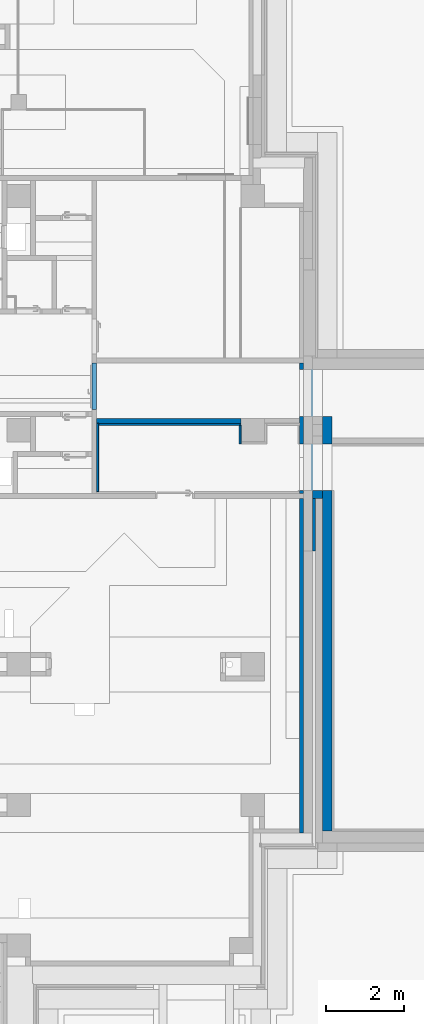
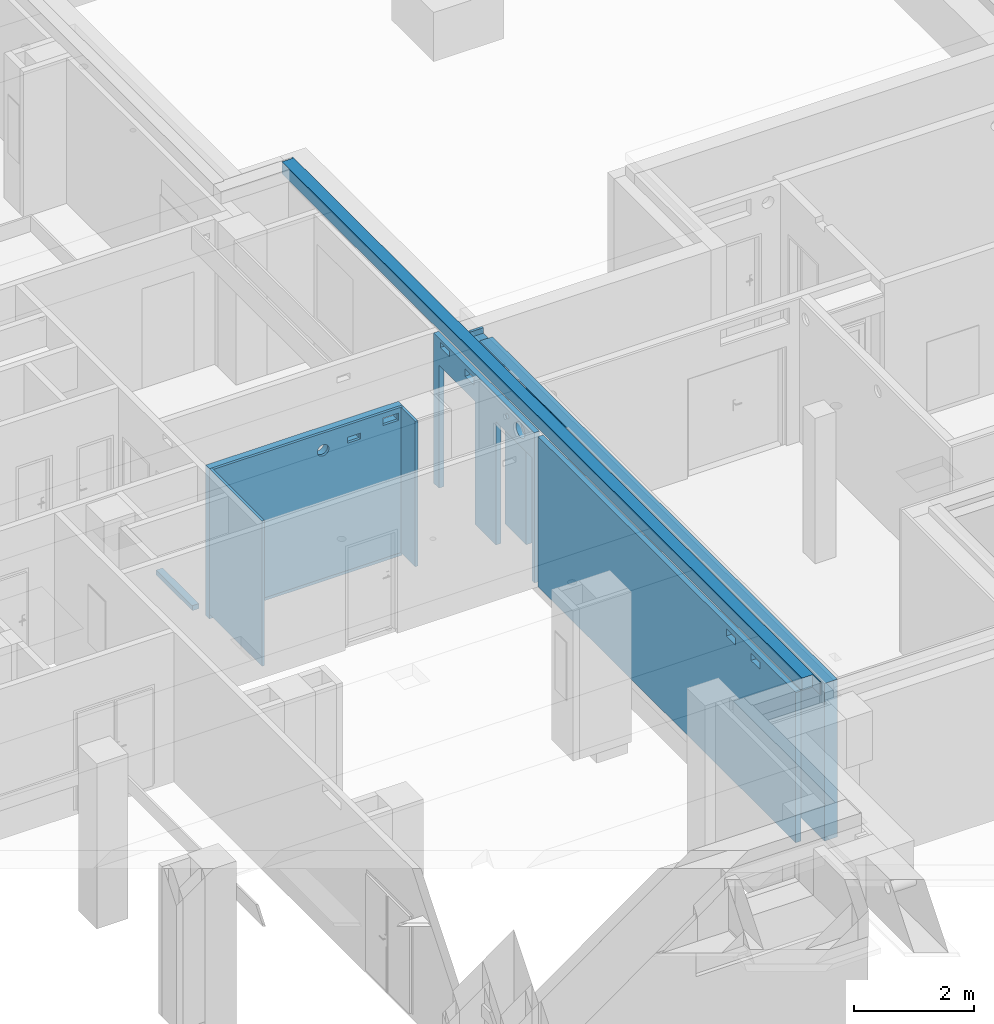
# One storey, part 34 of 84: 10 walls, 23 openings.
"""IFC4 building model written with IfcOpenShell, lengths in metres."""

from ifc_helpers import new_model, entity, si_unit, converted_unit, derived_unit, frame, frame_2d, origin, origin_with_axes, place, context, subcontext, project, spatial, polyline, rectangle, outline, extrude, material, layer, layer_set, layer_usage, element, save


model = new_model("IFC4")

# Units and contexts
model_context = context("Model", 3, precision=1e-05, world=origin())
body_context = subcontext(model_context, "Body", "Model", "MODEL_VIEW")
ifc_project = project(units=[si_unit("LENGTHUNIT", "METRE"), si_unit("AREAUNIT", "SQUARE_METRE"), si_unit("VOLUMEUNIT", "CUBIC_METRE"), si_unit("MASSUNIT", "GRAM", prefix="KILO"), converted_unit("PLANEANGLEUNIT", "DEGREE", entity("IfcPlaneAngleMeasure", 0.0174532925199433), si_unit("PLANEANGLEUNIT", "RADIAN"), dimensions=[0, 0, 0, 0, 0, 0, 0]), derived_unit("THERMALTRANSMITTANCEUNIT", [(si_unit("POWERUNIT", "WATT"), 1), (si_unit("THERMODYNAMICTEMPERATUREUNIT", "KELVIN"), -1), (si_unit("LENGTHUNIT", "METRE"), -2)]), derived_unit("VOLUMETRICFLOWRATEUNIT", [(si_unit("LENGTHUNIT", "METRE"), 3), (converted_unit("TIMEUNIT", "hour", entity("IfcTimeMeasure", 3600.0), si_unit("TIMEUNIT", "SECOND"), dimensions=[0, 0, 1, 0, 0, 0, 0]), -1), (si_unit("LENGTHUNIT", "METRE"), -1)])], contexts=[model_context])

# Site, building, storey
site_placement = place(None, origin())
site = spatial("IfcSite", under=ifc_project, at=site_placement, Name="3. ASŘ", CompositionType="ELEMENT")
building_placement = place(site_placement, origin())
building = spatial("IfcBuilding", under=site, at=building_placement, Name="Pavilon C", CompositionType="ELEMENT")
storey_placement = place(building_placement, frame((0.0, 0.0, -3.3)))
storey = spatial("IfcBuildingStorey", under=building, at=storey_placement, Name="Půdorys 1.PP", CompositionType="ELEMENT", Elevation=-3.3)

# Wall, openings
ifc_material_1 = material(Name="PÓROBETONOVÉ ZDIVO")
wall_1_placement = place(storey_placement, frame((51.25, 2.87999999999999, -0.1), z_axis=(0.0, 0.0, 1.0), x_axis=(0.0, 1.0, 0.0)))
wall_1 = element("IfcWall", 1, at=wall_1_placement, inside=storey, material=ifc_material_1, Name="PÓROBETONOVÉ ZDIVO", context=body_context, shape_type="SweptSolid", body=[
    extrude(rectangle(XDim=8.57, YDim=0.1, at=frame_2d((4.285, 0.05), x_axis=(1.0, 0.0))), origin_with_axes(), (0.0, 0.0, 1.0), 3.05),
    extrude(rectangle(XDim=3.35, YDim=0.1, at=frame_2d((1.675, 0.05), x_axis=(1.0, 0.0))), frame((8.695, 0.0, 0.0), z_axis=(0.0, 0.0, 1.0), x_axis=(1.0, 0.0, 0.0)), (0.0, 0.0, 1.0), 3.05),
])
opening_1_placement = place(wall_1_placement, frame((9.97, 0.1, 0.0), z_axis=(0.0, -1.0, 0.0), x_axis=(0.0, 0.0, 1.0)))
element("IfcOpeningElement", 2, at=opening_1_placement, cuts=wall_1, Name="Dveřní otvor", ObjectType="Opening", context=body_context, shape_type="SweptSolid", body=[
    extrude(outline(polyline([(0.0, 1.2), (2.5, 1.2), (2.5, 0.0), (0.0, 0.0), (0.0, 1.2)])), origin_with_axes(), (0.0, 0.0, 1.0), 0.1),
])
opening_2_placement = place(wall_1_placement, frame((9.30384548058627, 0.1, 2.68), z_axis=(0.0, -1.0, 0.0), x_axis=(0.0, 0.0, 1.0)))
element("IfcOpeningElement", 3, at=opening_2_placement, cuts=wall_1, Name="Prostup stěnou", ObjectType="Opening", context=body_context, shape_type="SweptSolid", body=[
    extrude(outline(polyline([(0.149999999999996, 0.0), (0.134320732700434, 0.000821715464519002), (0.118813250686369, 0.00327785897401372), (0.103647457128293, 0.00734152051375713), (0.0889895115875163, 0.0129681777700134), (0.0750000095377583, 0.0200961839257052), (0.0618322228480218, 0.0286474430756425), (0.0496304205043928, 0.0385282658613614), (0.0385282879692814, 0.0496303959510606), (0.0286474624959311, 0.0618321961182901), (0.0200962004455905, 0.0749999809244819), (0.0129681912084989, 0.0889894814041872), (0.00734153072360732, 0.103647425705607), (0.0032778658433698, 0.118813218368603), (0.000821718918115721, 0.134320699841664), (0.0, 0.149999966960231), (0.000821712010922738, 0.16567923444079), (0.00327785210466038, 0.181186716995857), (0.00734151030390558, 0.196352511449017), (0.0129681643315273, 0.211010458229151), (0.020096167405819, 0.22499996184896), (0.0286474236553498, 0.238167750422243), (0.0385282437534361, 0.250369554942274), (0.0496303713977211, 0.261471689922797), (0.0618321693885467, 0.271352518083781), (0.0749999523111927, 0.279903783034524), (0.0889894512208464, 0.287031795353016), (0.103647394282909, 0.292658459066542), (0.118813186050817, 0.296722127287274), (0.134320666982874, 0.299178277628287), (0.149999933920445, 0.3), (0.165679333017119, 0.299178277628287), (0.181186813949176, 0.296722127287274), (0.196352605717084, 0.292658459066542), (0.211010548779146, 0.287031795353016), (0.2250000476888, 0.279903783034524), (0.238167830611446, 0.271352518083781), (0.250369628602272, 0.261471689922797), (0.261471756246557, 0.250369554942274), (0.271352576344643, 0.238167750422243), (0.279903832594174, 0.22499996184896), (0.287031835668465, 0.211010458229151), (0.292658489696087, 0.196352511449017), (0.296722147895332, 0.181186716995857), (0.29917828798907, 0.16567923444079), (0.299999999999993, 0.149999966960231), (0.299178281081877, 0.134320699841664), (0.296722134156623, 0.118813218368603), (0.292658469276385, 0.103647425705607), (0.287031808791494, 0.0889894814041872), (0.279903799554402, 0.0749999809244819), (0.271352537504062, 0.0618321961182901), (0.261471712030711, 0.0496303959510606), (0.2503695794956, 0.0385282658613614), (0.238167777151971, 0.0286474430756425), (0.224999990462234, 0.0200961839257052), (0.211010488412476, 0.0129681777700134), (0.1963525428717, 0.00734152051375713), (0.181186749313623, 0.00327785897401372), (0.165679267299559, 0.000821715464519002), (0.149999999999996, 0.0)])), origin_with_axes(), (0.0, 0.0, 1.0), 0.1),
])
opening_3_placement = place(wall_1_placement, frame((1.48860889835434, 0.1, 2.8), z_axis=(0.0, -1.0, 0.0), x_axis=(0.0, 0.0, 1.0)))
element("IfcOpeningElement", 4, at=opening_3_placement, cuts=wall_1, Name="Prostup stěnou", ObjectType="Opening", context=body_context, shape_type="SweptSolid", body=[
    extrude(outline(polyline([(0.0, 0.3), (0.15, 0.3), (0.15, 0.0), (0.0, 0.0), (0.0, 0.3)])), origin_with_axes(), (0.0, 0.0, 1.0), 0.1),
])
opening_4_placement = place(wall_1_placement, frame((2.30860889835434, 0.1, 2.8), z_axis=(0.0, -1.0, 0.0), x_axis=(0.0, 0.0, 1.0)))
element("IfcOpeningElement", 5, at=opening_4_placement, cuts=wall_1, Name="Prostup stěnou", ObjectType="Opening", context=body_context, shape_type="SweptSolid", body=[
    extrude(outline(polyline([(0.0, 0.3), (0.15, 0.3), (0.15, 0.0), (0.0, 0.0), (0.0, 0.3)])), origin_with_axes(), (0.0, 0.0, 1.0), 0.1),
])
opening_5_placement = place(wall_1_placement, frame((11.0016914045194, 0.1, 2.8), z_axis=(0.0, -1.0, 0.0), x_axis=(0.0, 0.0, 1.0)))
element("IfcOpeningElement", 6, at=opening_5_placement, cuts=wall_1, Name="Prostup stěnou", ObjectType="Opening", context=body_context, shape_type="SweptSolid", body=[
    extrude(outline(polyline([(0.0, 0.3), (0.15, 0.3), (0.15, 0.0), (0.0, 0.0), (0.0, 0.3)])), origin_with_axes(), (0.0, 0.0, 1.0), 0.1),
])
opening_6_placement = place(wall_1_placement, frame((9.63913213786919, 0.1, 2.8), z_axis=(0.0, -1.0, 0.0), x_axis=(0.0, 0.0, 1.0)))
element("IfcOpeningElement", 7, at=opening_6_placement, cuts=wall_1, Name="Prostup stěnou", ObjectType="Opening", context=body_context, shape_type="SweptSolid", body=[
    extrude(outline(polyline([(0.0499999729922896, 0.0), (0.0447735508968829, 0.000273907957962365), (0.0396043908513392, 0.00109262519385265), (0.0345491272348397, 0.00244718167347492), (0.0296631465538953, 0.00432273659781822), (0.024999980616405, 0.006698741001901), (0.0206107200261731, 0.00954916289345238), (0.0165434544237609, 0.012842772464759), (0.0128427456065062, 0.0165434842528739), (0.00954913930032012, 0.0206107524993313), (0.00669872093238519, 0.0250000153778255), (0.0043227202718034, 0.0296631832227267), (0.00244716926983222, 0.0345491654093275), (0.00109261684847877, 0.0396044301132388), (0.000273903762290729, 0.0447735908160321), (0.0, 0.0500000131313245), (0.000273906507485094, 0.0552264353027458), (0.00109262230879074, 0.0603955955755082), (0.00244717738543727, 0.0654508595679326), (0.00432273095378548, 0.0703368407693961), (0.00669873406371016, 0.0750000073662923), (0.00954915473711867, 0.0793892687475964), (0.0128427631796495, 0.0834565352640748), (0.016543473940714, 0.0871572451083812), (0.0206107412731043, 0.0904508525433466), (0.0250000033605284, 0.0933012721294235), (0.0296631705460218, 0.0956772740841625), (0.0345491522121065, 0.0975528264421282), (0.0396044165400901, 0.0989073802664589), (0.0447735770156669, 0.0997260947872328), (0.0499999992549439, 0.1), (0.0552264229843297, 0.0997260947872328), (0.0603955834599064, 0.0989073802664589), (0.0654508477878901, 0.0975528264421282), (0.0703368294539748, 0.0956772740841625), (0.0749999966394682, 0.0933012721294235), (0.0793892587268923, 0.0904508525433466), (0.0834565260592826, 0.0871572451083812), (0.0871572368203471, 0.0834565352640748), (0.0904508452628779, 0.0793892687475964), (0.0933012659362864, 0.0750000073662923), (0.0956772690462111, 0.0703368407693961), (0.0975528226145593, 0.0654508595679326), (0.0989073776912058, 0.0603955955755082), (0.0997260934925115, 0.0552264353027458), (0.0999999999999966, 0.0500000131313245), (0.0997260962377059, 0.0447735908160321), (0.0989073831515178, 0.0396044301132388), (0.0975528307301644, 0.0345491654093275), (0.0956772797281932, 0.0296631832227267), (0.0933012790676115, 0.0250000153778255), (0.0904508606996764, 0.0206107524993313), (0.0871572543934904, 0.0165434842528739), (0.0834565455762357, 0.012842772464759), (0.0793892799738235, 0.00954916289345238), (0.0750000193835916, 0.006698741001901), (0.0703368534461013, 0.00432273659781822), (0.0654508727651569, 0.00244718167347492), (0.0603956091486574, 0.00109262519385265), (0.0552264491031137, 0.000273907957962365), (0.0499999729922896, 0.0)])), origin_with_axes(), (0.0, 0.0, 1.0), 0.1),
])
opening_7_placement = place(wall_1_placement, frame((11.82, 0.1, 2.89), z_axis=(0.0, -1.0, 0.0), x_axis=(0.0, 0.0, 1.0)))
element("IfcOpeningElement", 8, at=opening_7_placement, cuts=wall_1, Name="ZTI", ObjectType="Opening", context=body_context, shape_type="SweptSolid", body=[
    extrude(outline(polyline([(0.0, 0.3), (0.11, 0.3), (0.11, 0.0), (0.0, 0.0), (0.0, 0.3)])), origin_with_axes(), (0.0, 0.0, 1.0), 0.1),
])
opening_8_placement = place(wall_1_placement, frame((11.87, 0.1, 0.0), z_axis=(0.0, -1.0, 0.0), x_axis=(0.0, 0.0, 1.0)))
element("IfcOpeningElement", 9, at=opening_8_placement, cuts=wall_1, Name="Dveřní otvor", ObjectType="Opening", context=body_context, shape_type="SweptSolid", body=[
    extrude(outline(polyline([(0.0, 1.2), (2.5, 1.2), (2.5, 0.0), (0.0, 0.0), (0.0, 1.2)])), origin_with_axes(), (0.0, 0.0, 1.0), 0.1),
])

# Walls
ifc_material_2 = material(Name="ZELEZOBETONOVÁ KCE")
ifc_layer_1 = layer(ifc_material_2, 0.2)
ifc_material_3 = material(Name="LIGNOPOR")
ifc_layer_2 = layer(ifc_material_3, 0.025)
ifc_layer_set_1 = layer_set([ifc_layer_1, ifc_layer_2])
ifc_layer_usage_1 = layer_usage(ifc_layer_set_1, "AXIS2", "POSITIVE", 0.0)
wall_2_placement = place(storey_placement, frame((51.27, 20.17, 2.95), z_axis=(0.0, 0.0, 1.0), x_axis=(0.0, -1.0, 0.0)))
element("IfcWall", 10, at=wall_2_placement, inside=storey, material=ifc_layer_usage_1, context=body_context, shape_type="SweptSolid", body=[
    extrude(outline(polyline([(-17.54, 0.0), (-0.25, 0.0), (-0.25, 0.2), (0.0, 0.2), (0.0, 0.225), (-17.565, 0.225), (-17.565, 0.2), (-17.54, 0.2), (-17.54, 0.0)])), frame((17.54, 0.0, 0.0), z_axis=(0.0, 0.0, 1.0), x_axis=(1.0, 0.0, 0.0)), (0.0, 0.0, 1.0), 0.25),
])
ifc_material_4 = material(Name="AKUSTICKÝ OBKLAD")
ifc_layer_3 = layer(ifc_material_4, 0.05)
ifc_layer_set_2 = layer_set([ifc_layer_3])
ifc_layer_usage_2 = layer_usage(ifc_layer_set_2, "AXIS2", "POSITIVE", 0.0)
wall_3_placement = place(storey_placement, frame((45.95, 13.375, 0.0), z_axis=(0.0, 0.0, 1.0), x_axis=(0.0, -1.0, 0.0)))
element("IfcWall", 11, at=wall_3_placement, inside=storey, material=ifc_layer_usage_2, Name="AKUSTICKÝ OBKLAD", context=body_context, shape_type="SweptSolid", body=[
    extrude(rectangle(XDim=1.75, YDim=0.05, at=frame_2d((0.875, 0.025), x_axis=(1.0, 0.0))), origin_with_axes(), (0.0, 0.0, 1.0), 2.95),
])

# Wall, openings
ifc_material_5 = material(Name="AKUSTICKÝ OBKLAD")
ifc_layer_4 = layer(ifc_material_5, 0.05)
ifc_layer_set_3 = layer_set([ifc_layer_4])
ifc_layer_usage_3 = layer_usage(ifc_layer_set_3, "AXIS2", "POSITIVE", 0.0)
wall_4_placement = place(storey_placement, frame((49.65, 13.375, 0.0), z_axis=(0.0, 0.0, 1.0), x_axis=(-1.0, 0.0, 0.0)))
wall_4 = element("IfcWall", 12, at=wall_4_placement, inside=storey, material=ifc_layer_usage_3, Name="AKUSTICKÝ OBKLAD", context=body_context, shape_type="SweptSolid", body=[
    extrude(rectangle(XDim=3.65, YDim=0.05, at=frame_2d((1.825, 0.025), x_axis=(1.0, 0.0))), origin_with_axes(), (0.0, 0.0, 1.0), 2.95),
])
opening_9_placement = place(wall_4_placement, frame((1.65621743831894, 0.05, 2.4875), z_axis=(0.0, -1.0, 0.0), x_axis=(0.0, 0.0, 1.0)))
element("IfcOpeningElement", 13, at=opening_9_placement, cuts=wall_4, Name="Prostup stěnou", ObjectType="Opening", context=body_context, shape_type="SweptSolid", body=[
    extrude(outline(polyline([(0.1125, 0.0), (0.100740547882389, 0.00061628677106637), (0.089109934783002, 0.00245839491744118), (0.0777355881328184, 0.00550614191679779), (0.0667421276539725, 0.00972613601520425), (0.05625, 0.0150721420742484), (0.0463741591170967, 0.0214855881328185), (0.0372228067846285, 0.0288962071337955), (0.0288962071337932, 0.0372228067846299), (0.0214855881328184, 0.0463741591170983), (0.0150721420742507, 0.05625), (0.00972613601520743, 0.0667421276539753), (0.00550614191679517, 0.0777355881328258), (0.00245839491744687, 0.0891099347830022), (0.000616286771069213, 0.100740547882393), (0.0, 0.1125), (0.000616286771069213, 0.124259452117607), (0.00245839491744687, 0.135890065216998), (0.00550614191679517, 0.147264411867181), (0.00972613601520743, 0.158257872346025), (0.0150721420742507, 0.16875), (0.0214855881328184, 0.178625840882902), (0.0288962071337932, 0.18777719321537), (0.0372228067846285, 0.196103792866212), (0.0463741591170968, 0.203514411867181), (0.05625, 0.209927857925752), (0.0667421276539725, 0.215273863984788), (0.0777355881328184, 0.219493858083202), (0.089109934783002, 0.222541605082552), (0.100740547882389, 0.224383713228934), (0.1125, 0.225), (0.124259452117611, 0.224383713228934), (0.135890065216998, 0.222541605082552), (0.147264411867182, 0.219493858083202), (0.158257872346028, 0.215273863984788), (0.16875, 0.209927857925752), (0.178625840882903, 0.203514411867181), (0.187777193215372, 0.196103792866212), (0.196103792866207, 0.18777719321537), (0.203514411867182, 0.178625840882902), (0.209927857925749, 0.16875), (0.215273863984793, 0.158257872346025), (0.219493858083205, 0.147264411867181), (0.222541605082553, 0.135890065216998), (0.224383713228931, 0.124259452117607), (0.225, 0.1125), (0.224383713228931, 0.100740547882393), (0.222541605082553, 0.0891099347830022), (0.219493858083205, 0.0777355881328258), (0.215273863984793, 0.0667421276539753), (0.209927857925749, 0.05625), (0.203514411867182, 0.0463741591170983), (0.196103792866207, 0.0372228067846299), (0.187777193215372, 0.0288962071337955), (0.178625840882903, 0.0214855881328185), (0.16875, 0.0150721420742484), (0.158257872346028, 0.00972613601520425), (0.147264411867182, 0.00550614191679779), (0.135890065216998, 0.00245839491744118), (0.124259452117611, 0.00061628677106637), (0.1125, 0.0)])), origin_with_axes(), (0.0, 0.0, 1.0), 0.05),
])
opening_10_placement = place(wall_4_placement, frame((0.397454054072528, 0.05, 2.7), z_axis=(0.0, -1.0, 0.0), x_axis=(0.0, 0.0, 1.0)))
element("IfcOpeningElement", 14, at=opening_10_placement, cuts=wall_4, Name="Prostup stěnou", ObjectType="Opening", context=body_context, shape_type="SweptSolid", body=[
    extrude(outline(polyline([(0.0, 0.3), (0.15, 0.3), (0.15, 0.0), (0.0, 0.0), (0.0, 0.3)])), origin_with_axes(), (0.0, 0.0, 1.0), 0.05),
])
opening_11_placement = place(wall_4_placement, frame((1.07716515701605, 0.05, 2.58), z_axis=(0.0, -1.0, 0.0), x_axis=(0.0, 0.0, 1.0)))
element("IfcOpeningElement", 15, at=opening_11_placement, cuts=wall_4, Name="Prostup stěnou", ObjectType="Opening", context=body_context, shape_type="SweptSolid", body=[
    extrude(outline(polyline([(0.0, 0.25), (0.12, 0.25), (0.12, 0.0), (0.0, 0.0), (0.0, 0.25)])), origin_with_axes(), (0.0, 0.0, 1.0), 0.05),
])

# Walls
ifc_material_6 = material(Name="AKUSTICKÝ OBKLAD")
ifc_layer_5 = layer(ifc_material_6, 0.05)
ifc_layer_set_4 = layer_set([ifc_layer_5])
ifc_layer_usage_4 = layer_usage(ifc_layer_set_4, "AXIS2", "POSITIVE", 0.0)
wall_5_placement = place(storey_placement, frame((49.65, 12.85, 0.0), z_axis=(0.0, 0.0, 1.0), x_axis=(0.0, 1.0, 0.0)))
element("IfcWall", 16, at=wall_5_placement, inside=storey, material=ifc_layer_usage_4, Name="AKUSTICKÝ OBKLAD", context=body_context, shape_type="SweptSolid", body=[
    extrude(rectangle(XDim=0.475, YDim=0.05, at=frame_2d((0.2375, 0.025), x_axis=(1.0, 0.0))), origin_with_axes(), (0.0, 0.0, 1.0), 2.95),
])
ifc_material_7 = material(Name="PERIMETR")
ifc_layer_6 = layer(ifc_material_7, 0.08)
ifc_layer_set_5 = layer_set([ifc_layer_6])
ifc_layer_usage_5 = layer_usage(ifc_layer_set_5, "AXIS2", "POSITIVE", 0.0)
wall_6_placement = place(storey_placement, frame((51.555, 10.1, 0.9), z_axis=(0.0, 0.0, 1.0), x_axis=(0.0, 1.0, 0.0)))
element("IfcWall", 17, at=wall_6_placement, inside=storey, material=ifc_layer_usage_5, Name="PERIMETR", context=body_context, shape_type="SweptSolid", body=[
    extrude(rectangle(XDim=1.34999999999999, YDim=0.08, at=frame_2d((0.674999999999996, 0.04), x_axis=(1.0, 0.0))), origin_with_axes(), (0.0, 0.0, 1.0), 2.05),
])

# Wall, openings
ifc_material_8 = material(Name="ZELEZOBETONOVÁ KCE")
ifc_layer_7 = layer(ifc_material_8, 0.25)
ifc_layer_set_6 = layer_set([ifc_layer_7])
ifc_layer_usage_6 = layer_usage(ifc_layer_set_6, "AXIS2", "POSITIVE", -0.125)
wall_7_placement = place(storey_placement, frame((51.98, 2.93, -0.3), z_axis=(0.0, 0.0, 1.0), x_axis=(0.0, 1.0, 0.0)))
wall_7 = element("IfcWall", 18, at=wall_7_placement, inside=storey, material=ifc_layer_usage_6, Name="ZELEZOBETONOVÁ KCE", context=body_context, shape_type="SweptSolid", body=[
    extrude(rectangle(XDim=11.82, YDim=0.25, at=frame_2d((5.91, 0.125), x_axis=(1.0, 0.0))), origin_with_axes(), (0.0, 0.0, 1.0), 3.2),
])
opening_12_placement = place(wall_7_placement, frame((10.62, 0.0, 0.0), z_axis=(0.0, 1.0, 0.0), x_axis=(0.0, 0.0, 1.0)))
element("IfcOpeningElement", 19, at=opening_12_placement, cuts=wall_7, Name="Dveřní otvor", ObjectType="Opening", context=body_context, shape_type="SweptSolid", body=[
    extrude(outline(polyline([(0.0, 1.2), (2.7, 1.2), (2.7, 0.0), (0.0, 0.0), (0.0, 1.2)])), origin_with_axes(), (0.0, 0.0, 1.0), 0.25),
])
opening_13_placement = place(wall_7_placement, frame((8.72, 0.0, 0.0), z_axis=(0.0, 1.0, 0.0), x_axis=(0.0, 0.0, 1.0)))
element("IfcOpeningElement", 20, at=opening_13_placement, cuts=wall_7, Name="Dveřní otvor", ObjectType="Opening", context=body_context, shape_type="SweptSolid", body=[
    extrude(outline(polyline([(0.0, 1.2), (2.7, 1.2), (2.7, 0.0), (0.0, 0.0), (0.0, 1.2)])), origin_with_axes(), (0.0, 0.0, 1.0), 0.25),
])
opening_14_placement = place(wall_7_placement, frame((1.12860889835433, 0.0, 3.0), z_axis=(0.0, 1.0, 0.0), x_axis=(0.0, 0.0, 1.0)))
element("IfcOpeningElement", 21, at=opening_14_placement, cuts=wall_7, Name="UT", ObjectType="Opening", context=body_context, shape_type="SweptSolid", body=[
    extrude(outline(polyline([(0.0, 0.31), (0.15, 0.31), (0.15, 0.0), (0.0, 0.0), (0.0, 0.31)])), origin_with_axes(), (0.0, 0.0, 1.0), 0.25),
])
opening_15_placement = place(wall_7_placement, frame((1.95860889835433, 0.0, 3.0), z_axis=(0.0, 1.0, 0.0), x_axis=(0.0, 0.0, 1.0)))
element("IfcOpeningElement", 22, at=opening_15_placement, cuts=wall_7, Name="UT", ObjectType="Opening", context=body_context, shape_type="SweptSolid", body=[
    extrude(outline(polyline([(0.0, 0.3), (0.15, 0.3), (0.15, 0.0), (0.0, 0.0), (0.0, 0.3)])), origin_with_axes(), (0.0, 0.0, 1.0), 0.25),
])
opening_16_placement = place(wall_7_placement, frame((11.47, 0.0, 3.09), z_axis=(0.0, 1.0, 0.0), x_axis=(0.0, 0.0, 1.0)))
element("IfcOpeningElement", 23, at=opening_16_placement, cuts=wall_7, Name="ZTI", ObjectType="Opening", context=body_context, shape_type="SweptSolid", body=[
    extrude(outline(polyline([(0.0, 0.3), (0.11, 0.3), (0.11, 0.0), (0.0, 0.0), (0.0, 0.3)])), origin_with_axes(), (0.0, 0.0, 1.0), 0.25),
])
opening_17_placement = place(wall_7_placement, frame((10.6516914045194, 0.0, 3.0), z_axis=(0.0, 1.0, 0.0), x_axis=(0.0, 0.0, 1.0)))
element("IfcOpeningElement", 24, at=opening_17_placement, cuts=wall_7, Name="UT", ObjectType="Opening", context=body_context, shape_type="SweptSolid", body=[
    extrude(outline(polyline([(0.0, 0.3), (0.15, 0.3), (0.15, 0.0), (0.0, 0.0), (0.0, 0.3)])), origin_with_axes(), (0.0, 0.0, 1.0), 0.25),
])
opening_18_placement = place(wall_7_placement, frame((9.48913213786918, 0.0, 3.0), z_axis=(0.0, 1.0, 0.0), x_axis=(0.0, 0.0, 1.0)))
element("IfcOpeningElement", 25, at=opening_18_placement, cuts=wall_7, Name="ZTI", ObjectType="Opening", context=body_context, shape_type="SweptSolid", body=[
    extrude(outline(polyline([(0.0499999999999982, 0.0), (0.044773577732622, 0.00027390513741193), (0.0396044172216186, 0.00109261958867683), (0.0345491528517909, 0.00244717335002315), (0.0296631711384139, 0.00432272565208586), (0.0250000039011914, 0.00669872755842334), (0.0206107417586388, 0.0095491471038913), (0.0165434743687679, 0.0128427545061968), (0.0128427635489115, 0.0165434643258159), (0.0095491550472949, 0.0206107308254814), (0.00669873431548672, 0.0249999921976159), (0.00432273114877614, 0.0296631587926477), (0.00244717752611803, 0.0345491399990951), (0.00109262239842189, 0.03960440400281), (0.000273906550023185, 0.044773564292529), (0.0, 0.0499999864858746), (0.000273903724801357, 0.0552264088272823), (0.00109261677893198, 0.0603955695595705), (0.00244716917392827, 0.0654508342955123), (0.00432272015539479, 0.0703368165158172), (0.00669872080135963, 0.0749999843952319), (0.00954913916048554, 0.0793892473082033), (0.0128427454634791, 0.0834565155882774), (0.0165434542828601, 0.0871572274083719), (0.0206107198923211, 0.0904508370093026), (0.0249999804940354, 0.0933012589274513), (0.0296631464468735, 0.0956772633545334), (0.0345491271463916, 0.0975528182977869), (0.0396043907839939, 0.0989073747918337), (0.0447735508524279, 0.0997260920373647), (0.0499999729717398, 0.1), (0.0552264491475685, 0.0997260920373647), (0.0603956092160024, 0.0989073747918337), (0.0654508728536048, 0.0975528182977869), (0.0703368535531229, 0.0956772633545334), (0.075000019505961, 0.0933012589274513), (0.0793892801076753, 0.0904508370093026), (0.0834565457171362, 0.0871572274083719), (0.0871572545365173, 0.0834565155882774), (0.0904508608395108, 0.0793892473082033), (0.0933012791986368, 0.0749999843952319), (0.0956772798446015, 0.0703368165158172), (0.097552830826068, 0.0654508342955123), (0.0989073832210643, 0.0603955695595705), (0.099726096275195, 0.0552264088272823), (0.0999999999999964, 0.0499999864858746), (0.0997260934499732, 0.044773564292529), (0.0989073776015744, 0.03960440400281), (0.0975528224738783, 0.0345491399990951), (0.0956772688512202, 0.0296631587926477), (0.0933012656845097, 0.0249999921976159), (0.0904508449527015, 0.0206107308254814), (0.0871572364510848, 0.0165434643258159), (0.0834565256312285, 0.0128427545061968), (0.0793892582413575, 0.0095491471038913), (0.074999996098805, 0.00669872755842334), (0.0703368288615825, 0.00432272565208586), (0.0654508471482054, 0.00244717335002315), (0.0603955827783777, 0.00109261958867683), (0.0552264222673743, 0.00027390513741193), (0.0499999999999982, 0.0)])), origin_with_axes(), (0.0, 0.0, 1.0), 0.25),
])
opening_19_placement = place(wall_7_placement, frame((8.95384548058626, 0.0, 2.88), z_axis=(0.0, 1.0, 0.0), x_axis=(0.0, 0.0, 1.0)))
element("IfcOpeningElement", 26, at=opening_19_placement, cuts=wall_7, Name="VZT", ObjectType="Opening", context=body_context, shape_type="SweptSolid", body=[
    extrude(outline(polyline([(0.149999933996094, 0.0), (0.134320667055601, 0.000821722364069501), (0.11881318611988, 0.00327787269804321), (0.10364739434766, 0.00734154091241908), (0.0889894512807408, 0.0129682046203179), (0.0749999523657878, 0.0200962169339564), (0.0618321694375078, 0.0286474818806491), (0.0496303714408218, 0.0385283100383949), (0.0385282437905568, 0.0496304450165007), (0.0286474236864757, 0.0618322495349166), (0.0200961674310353, 0.0750000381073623), (0.0129681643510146, 0.08898954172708), (0.00734151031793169, 0.103647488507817), (0.00327785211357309, 0.118813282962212), (0.000821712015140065, 0.134320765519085), (0.0, 0.150000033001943), (0.00082171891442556, 0.165679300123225), (0.00327786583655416, 0.181186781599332), (0.00734153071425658, 0.196352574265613), (0.0129681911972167, 0.211010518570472), (0.0200962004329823, 0.225000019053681), (0.0286474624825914, 0.238167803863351), (0.0385282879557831, 0.250369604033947), (0.0496304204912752, 0.261471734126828), (0.0618322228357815, 0.271352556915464), (0.0750000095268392, 0.27990381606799), (0.0889895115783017, 0.287031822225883), (0.103647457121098, 0.292658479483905), (0.118813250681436, 0.296722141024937), (0.134320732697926, 0.299178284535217), (0.149999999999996, 0.3), (0.165679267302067, 0.299178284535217), (0.181186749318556, 0.296722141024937), (0.196352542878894, 0.292658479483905), (0.211010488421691, 0.287031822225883), (0.224999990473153, 0.27990381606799), (0.238167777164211, 0.271352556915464), (0.250369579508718, 0.261471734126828), (0.26147171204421, 0.250369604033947), (0.271352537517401, 0.238167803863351), (0.27990379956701, 0.225000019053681), (0.287031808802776, 0.211010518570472), (0.292658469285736, 0.196352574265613), (0.296722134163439, 0.181186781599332), (0.299178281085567, 0.165679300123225), (0.299999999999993, 0.150000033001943), (0.299178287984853, 0.134320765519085), (0.29672214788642, 0.118813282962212), (0.292658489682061, 0.103647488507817), (0.287031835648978, 0.08898954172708), (0.279903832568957, 0.0750000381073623), (0.271352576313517, 0.0618322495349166), (0.261471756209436, 0.0496304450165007), (0.250369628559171, 0.0385283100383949), (0.238167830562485, 0.0286474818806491), (0.225000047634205, 0.0200962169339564), (0.211010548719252, 0.0129682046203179), (0.196352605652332, 0.00734154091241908), (0.181186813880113, 0.00327787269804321), (0.165679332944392, 0.000821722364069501), (0.149999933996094, 0.0)])), origin_with_axes(), (0.0, 0.0, 1.0), 0.25),
])

# Wall
ifc_material_9 = material(Name="ZELEZOBETONOVÁ KCE")
ifc_layer_8 = layer(ifc_material_9, 0.2)
ifc_layer_set_7 = layer_set([ifc_layer_8])
ifc_layer_usage_7 = layer_usage(ifc_layer_set_7, "AXIS2", "POSITIVE", 0.0)
wall_8_placement = place(storey_placement, frame((51.73, 11.65, -0.3), z_axis=(0.0, 0.0, 1.0), x_axis=(-1.0, 0.0, 0.0)))
element("IfcWall", 27, at=wall_8_placement, inside=storey, material=ifc_layer_usage_7, Name="ZELEZOBETONOVÁ KCE", context=body_context, shape_type="SweptSolid", body=[
    extrude(rectangle(XDim=0.255, YDim=0.2, at=frame_2d((0.1275, 0.1), x_axis=(1.0, 0.0))), origin_with_axes(), (0.0, 0.0, 1.0), 3.2),
])

# Wall, opening
ifc_material_10 = material(Name="ZDIVO Z CDm")
ifc_layer_9 = layer(ifc_material_10, 0.125)
ifc_layer_set_8 = layer_set([ifc_layer_9])
ifc_layer_usage_8 = layer_usage(ifc_layer_set_8, "AXIS2", "POSITIVE", 0.0)
wall_9_placement = place(storey_placement, frame((45.95, 13.725, -0.1), z_axis=(0.0, 0.0, 1.0), x_axis=(0.0, 1.0, 0.0)))
wall_9 = element("IfcWall", 28, at=wall_9_placement, inside=storey, material=ifc_layer_usage_8, Name="ZDIVO Z CDm", context=body_context, shape_type="SweptSolid", body=[
    extrude(rectangle(XDim=1.2, YDim=0.125, at=frame_2d((0.6, 0.0625), x_axis=(1.0, 0.0))), origin_with_axes(), (0.0, 0.0, 1.0), 2.12),
])
opening_20_placement = place(wall_9_placement, frame((0.0, 0.0, 0.1), z_axis=(0.0, 1.0, 0.0), x_axis=(0.0, 0.0, 1.0)))
element("IfcOpeningElement", 29, at=opening_20_placement, cuts=wall_9, Name="Dveřní otvor", ObjectType="Opening", context=body_context, shape_type="SweptSolid", body=[
    extrude(outline(polyline([(0.0, 1.2), (2.02, 1.2), (2.02, 0.0), (0.0, 0.0), (0.0, 1.2)])), origin_with_axes(), (0.0, 0.0, 1.0), 0.125),
])

# Wall, openings
ifc_material_11 = material(Name="SDK - 1 KCE + DVOJITÉ OPLÁŠTĚNÍ")
ifc_layer_10 = layer(ifc_material_11, 0.125)
ifc_layer_set_9 = layer_set([ifc_layer_10])
ifc_layer_usage_9 = layer_usage(ifc_layer_set_9, "AXIS2", "POSITIVE", 0.0)
wall_10_placement = place(storey_placement, frame((49.65, 13.5, -0.1), z_axis=(0.0, 0.0, 1.0), x_axis=(-1.0, 0.0, 0.0)))
wall_10 = element("IfcWall", 30, at=wall_10_placement, inside=storey, material=ifc_layer_usage_9, Name="SDK - 1 KCE + DVOJITÉ OPLÁŠTĚNÍ", context=body_context, shape_type="SweptSolid", body=[
    extrude(rectangle(XDim=3.7, YDim=0.125, at=frame_2d((1.85, 0.0625), x_axis=(1.0, 0.0))), origin_with_axes(), (0.0, 0.0, 1.0), 3.05),
])
opening_21_placement = place(wall_10_placement, frame((1.43121743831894, 0.0, 2.5875), z_axis=(0.0, 1.0, 0.0), x_axis=(0.0, 0.0, 1.0)))
element("IfcOpeningElement", 31, at=opening_21_placement, cuts=wall_10, Name="VZT", ObjectType="Opening", context=body_context, shape_type="SweptSolid", body=[
    extrude(outline(polyline([(0.112499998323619, 0.225), (0.124259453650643, 0.2243837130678), (0.135890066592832, 0.222541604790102), (0.147264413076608, 0.219493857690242), (0.158257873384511, 0.21527386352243), (0.168750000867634, 0.209927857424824), (0.178625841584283, 0.203514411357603), (0.187777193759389, 0.196103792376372), (0.196103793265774, 0.187777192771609), (0.203514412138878, 0.178625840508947), (0.209927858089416, 0.168749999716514), (0.215273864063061, 0.158257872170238), (0.219493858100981, 0.147264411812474), (0.222541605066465, 0.135890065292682), (0.224383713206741, 0.124259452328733), (0.225, 0.112500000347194), (0.224383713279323, 0.100740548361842), (0.222541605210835, 0.0891099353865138), (0.219493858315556, 0.0777355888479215), (0.21527386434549, 0.0667421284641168), (0.209927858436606, 0.0562500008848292), (0.203514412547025, 0.0463741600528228), (0.196103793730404, 0.0372228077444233), (0.187777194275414, 0.0288962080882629), (0.178625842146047, 0.0214855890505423), (0.168750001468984, 0.0150721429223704), (0.158257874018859, 0.00972613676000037), (0.147264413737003, 0.00550614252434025), (0.135890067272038, 0.00245839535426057), (0.124259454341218, 0.000616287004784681), (0.11249999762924, 0.0), (0.100740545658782, 0.000616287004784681), (0.089109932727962, 0.00245839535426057), (0.0777355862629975, 0.00550614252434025), (0.0667421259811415, 0.00972613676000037), (0.0562499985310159, 0.0150721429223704), (0.0463741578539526, 0.0214855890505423), (0.0372228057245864, 0.0288962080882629), (0.0288962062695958, 0.0372228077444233), (0.0214855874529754, 0.0463741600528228), (0.015072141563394, 0.0562500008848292), (0.0097261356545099, 0.0667421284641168), (0.00550614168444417, 0.0777355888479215), (0.00245839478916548, 0.0891099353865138), (0.000616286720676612, 0.100740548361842), (0.0, 0.112500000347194), (0.000616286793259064, 0.124259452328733), (0.00245839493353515, 0.135890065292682), (0.00550614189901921, 0.147264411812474), (0.0097261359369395, 0.158257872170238), (0.0150721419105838, 0.168749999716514), (0.0214855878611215, 0.178625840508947), (0.0288962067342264, 0.187777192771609), (0.0372228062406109, 0.196103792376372), (0.0463741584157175, 0.203514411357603), (0.0562499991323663, 0.209927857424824), (0.0667421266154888, 0.21527386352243), (0.0777355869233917, 0.219493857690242), (0.0891099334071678, 0.222541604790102), (0.100740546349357, 0.2243837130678), (0.112499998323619, 0.225)])), origin_with_axes(), (0.0, 0.0, 1.0), 0.125),
])
opening_22_placement = place(wall_10_placement, frame((0.0974540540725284, 0.0, 2.8), z_axis=(0.0, 1.0, 0.0), x_axis=(0.0, 0.0, 1.0)))
element("IfcOpeningElement", 32, at=opening_22_placement, cuts=wall_10, Name="UT", ObjectType="Opening", context=body_context, shape_type="SweptSolid", body=[
    extrude(outline(polyline([(0.0, 0.3), (0.15, 0.3), (0.15, 0.0), (0.0, 0.0), (0.0, 0.3)])), origin_with_axes(), (0.0, 0.0, 1.0), 0.125),
])
opening_23_placement = place(wall_10_placement, frame((0.827165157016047, 0.0, 2.68), z_axis=(0.0, 1.0, 0.0), x_axis=(0.0, 0.0, 1.0)))
element("IfcOpeningElement", 33, at=opening_23_placement, cuts=wall_10, Name="UT", ObjectType="Opening", context=body_context, shape_type="SweptSolid", body=[
    extrude(outline(polyline([(0.0, 0.25), (0.12, 0.25), (0.12, 0.0), (0.0, 0.0), (0.0, 0.25)])), origin_with_axes(), (0.0, 0.0, 1.0), 0.125),
])

save(model, "model.ifc")
